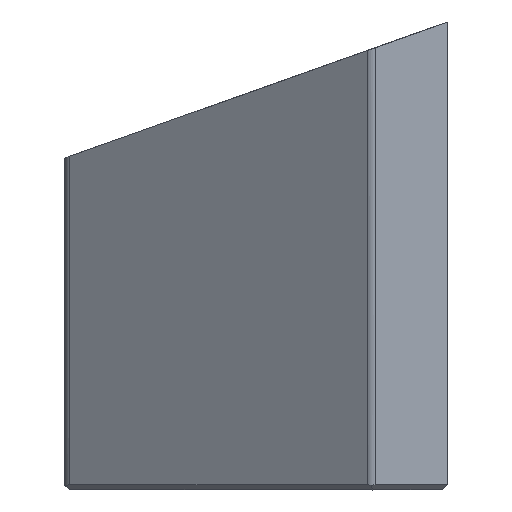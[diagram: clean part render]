
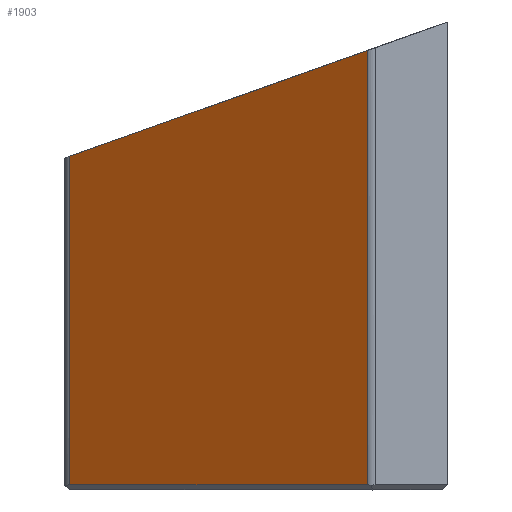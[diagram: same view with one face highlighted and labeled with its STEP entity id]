
A CAD part, front view. The second image highlights one B-rep face of the part: STEP entity #1903.
In plain terms, the highlighted planar face has unit normal (-0.6, -0.8, 0).
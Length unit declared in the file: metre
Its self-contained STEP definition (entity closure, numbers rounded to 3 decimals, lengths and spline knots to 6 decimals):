
#370=ORIENTED_EDGE('',*,*,#837,.T.);
#371=ORIENTED_EDGE('',*,*,#835,.F.);
#372=ORIENTED_EDGE('',*,*,#743,.F.);
#373=ORIENTED_EDGE('',*,*,#838,.F.);
#743=EDGE_CURVE('',#1016,#1017,#1182,.T.);
#835=EDGE_CURVE('',#1017,#1072,#1241,.T.);
#837=EDGE_CURVE('',#1073,#1072,#1242,.T.);
#838=EDGE_CURVE('',#1073,#1016,#1243,.T.);
#1016=VERTEX_POINT('',#2814);
#1017=VERTEX_POINT('',#2816);
#1072=VERTEX_POINT('',#3005);
#1073=VERTEX_POINT('',#3011);
#1182=LINE('',#2815,#1373);
#1241=LINE('',#3004,#1432);
#1242=LINE('',#3010,#1433);
#1243=LINE('',#3012,#1434);
#1373=VECTOR('',#2233,1.);
#1432=VECTOR('',#2412,1.);
#1433=VECTOR('',#2415,1.);
#1434=VECTOR('',#2416,1.);
#1571=EDGE_LOOP('',(#370,#371,#372,#373));
#1706=FACE_BOUND('',#1571,.T.);
#1819=PLANE('',#2062);
#1903=ADVANCED_FACE('',(#1706),#1819,.F.);
#2062=AXIS2_PLACEMENT_3D('',#3009,#2413,#2414);
#2233=DIRECTION('',(0.769,-0.577,0.274));
#2412=DIRECTION('',(0.,0.,-1.));
#2413=DIRECTION('',(0.6,0.8,0.));
#2414=DIRECTION('',(0.8,-0.6,0.));
#2415=DIRECTION('',(0.8,-0.6,0.));
#2416=DIRECTION('',(0.,0.,1.));
#2814=CARTESIAN_POINT('',(0.0006,-0.07045,0.085213));
#2815=CARTESIAN_POINT('',(0.0006,-0.07045,0.085213));
#2816=CARTESIAN_POINT('',(0.0356,-0.0967,0.097658));
#3004=CARTESIAN_POINT('',(0.0356,-0.0967,0.131));
#3005=CARTESIAN_POINT('',(0.0356,-0.0967,0.0466));
#3009=CARTESIAN_POINT('',(0.,-0.07,0.051));
#3010=CARTESIAN_POINT('',(0.,-0.07,0.0466));
#3011=CARTESIAN_POINT('',(0.0006,-0.07045,0.0466));
#3012=CARTESIAN_POINT('',(0.0006,-0.07045,0.0466));
